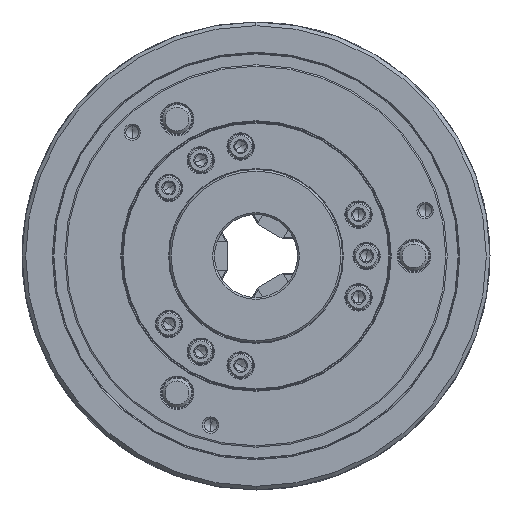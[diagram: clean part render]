
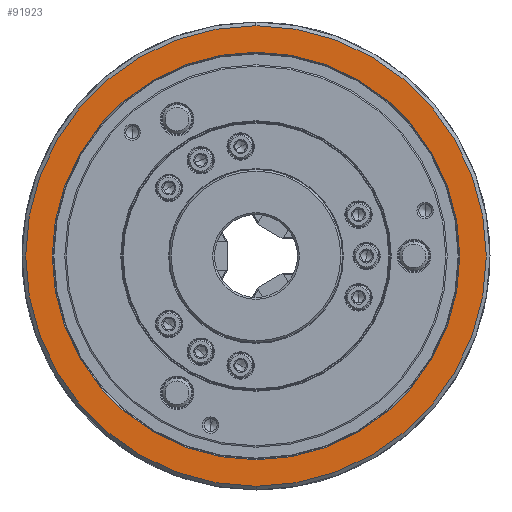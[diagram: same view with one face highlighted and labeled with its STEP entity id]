
A CAD part, left-side view. The second image highlights one B-rep face of the part: STEP entity #91923.
In plain terms, the highlighted planar face has unit normal (-1, 0, 0).
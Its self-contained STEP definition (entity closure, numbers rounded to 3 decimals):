
#3695 = EDGE_CURVE ( 'NONE', #22410, #85331, #32683, .T. ) ;
#4132 = CIRCLE ( 'NONE', #13822, 125. ) ;
#4998 = VERTEX_POINT ( 'NONE', #22089 ) ;
#6650 = DIRECTION ( 'NONE',  ( 1., 0., 0. ) ) ;
#6665 = DIRECTION ( 'NONE',  ( -1., 0., 0. ) ) ;
#8638 = DIRECTION ( 'NONE',  ( 1., 0., 0. ) ) ;
#13822 = AXIS2_PLACEMENT_3D ( 'NONE', #40430, #24888, #85365 ) ;
#14759 = ORIENTED_EDGE ( 'NONE', *, *, #25214, .F. ) ;
#17064 = ORIENTED_EDGE ( 'NONE', *, *, #3695, .T. ) ;
#18657 = EDGE_LOOP ( 'NONE', ( #17064, #53062 ) ) ;
#21737 = CARTESIAN_POINT ( 'NONE',  ( -100., 0., 110.6 ) ) ;
#22089 = CARTESIAN_POINT ( 'NONE',  ( -100., 0., -125. ) ) ;
#22410 = VERTEX_POINT ( 'NONE', #21737 ) ;
#23069 = AXIS2_PLACEMENT_3D ( 'NONE', #48386, #8638, #24281 ) ;
#24281 = DIRECTION ( 'NONE',  ( 0., 0., -1. ) ) ;
#24888 = DIRECTION ( 'NONE',  ( 1., 0., 0. ) ) ;
#25214 = EDGE_CURVE ( 'NONE', #4998, #57348, #4132, .T. ) ;
#25985 = CARTESIAN_POINT ( 'NONE',  ( -100., 0., 125. ) ) ;
#26858 = CARTESIAN_POINT ( 'NONE',  ( -100., 0., 0. ) ) ;
#27414 = PLANE ( 'NONE',  #34743 ) ;
#27945 = EDGE_CURVE ( 'NONE', #85331, #22410, #75305, .T. ) ;
#30943 = ORIENTED_EDGE ( 'NONE', *, *, #47154, .F. ) ;
#32683 = CIRCLE ( 'NONE', #23069, 110.6 ) ;
#34407 = DIRECTION ( 'NONE',  ( 0., 0., -1. ) ) ;
#34743 = AXIS2_PLACEMENT_3D ( 'NONE', #73761, #6665, #61051 ) ;
#34930 = FACE_BOUND ( 'NONE', #18657, .T. ) ;
#36684 = AXIS2_PLACEMENT_3D ( 'NONE', #85242, #6650, #46387 ) ;
#40430 = CARTESIAN_POINT ( 'NONE',  ( -100., 0., 0. ) ) ;
#46387 = DIRECTION ( 'NONE',  ( 0., 0., -1. ) ) ;
#47085 = EDGE_LOOP ( 'NONE', ( #14759, #30943 ) ) ;
#47154 = EDGE_CURVE ( 'NONE', #57348, #4998, #69460, .T. ) ;
#48386 = CARTESIAN_POINT ( 'NONE',  ( -100., 0., 0. ) ) ;
#49945 = DIRECTION ( 'NONE',  ( 1., 0., 0. ) ) ;
#53062 = ORIENTED_EDGE ( 'NONE', *, *, #27945, .T. ) ;
#57348 = VERTEX_POINT ( 'NONE', #25985 ) ;
#61051 = DIRECTION ( 'NONE',  ( 0., 0., 1. ) ) ;
#65677 = FACE_OUTER_BOUND ( 'NONE', #47085, .T. ) ;
#69460 = CIRCLE ( 'NONE', #72709, 125. ) ;
#71853 = CARTESIAN_POINT ( 'NONE',  ( -100., 0., -110.6 ) ) ;
#72709 = AXIS2_PLACEMENT_3D ( 'NONE', #26858, #49945, #34407 ) ;
#73761 = CARTESIAN_POINT ( 'NONE',  ( -100., 110.6, 0. ) ) ;
#75305 = CIRCLE ( 'NONE', #36684, 110.6 ) ;
#85242 = CARTESIAN_POINT ( 'NONE',  ( -100., 0., 0. ) ) ;
#85331 = VERTEX_POINT ( 'NONE', #71853 ) ;
#85365 = DIRECTION ( 'NONE',  ( 0., 0., -1. ) ) ;
#91923 = ADVANCED_FACE ( 'NONE', ( #34930, #65677 ), #27414, .T. ) ;
